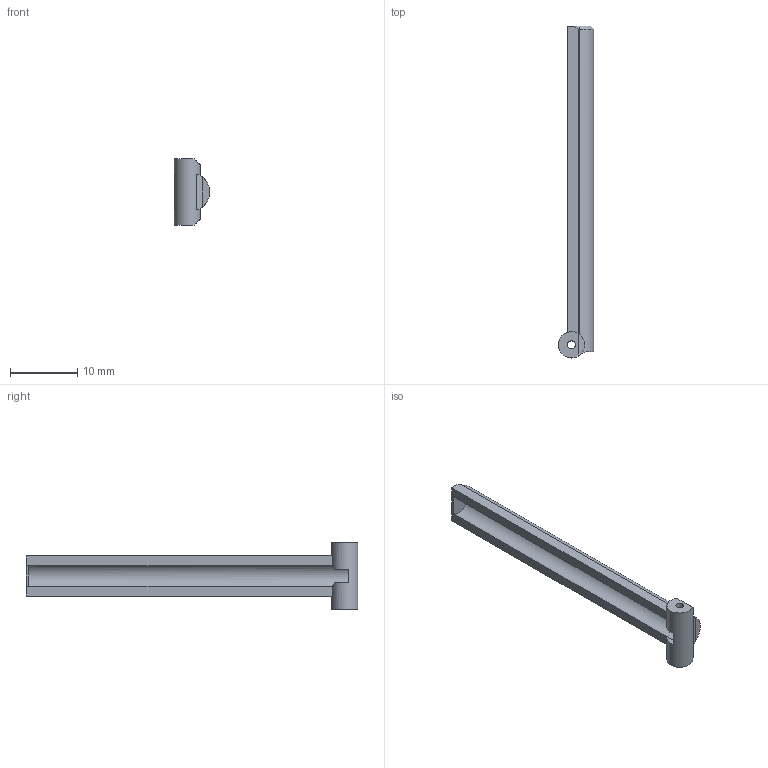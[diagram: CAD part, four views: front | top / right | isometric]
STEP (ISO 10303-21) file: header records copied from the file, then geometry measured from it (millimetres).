
FILE_DESCRIPTION(('FreeCAD Model'),'2;1');
FILE_NAME('Open CASCADE Shape Model','2026-01-29T07:27:15',(''),(''), 'Open CASCADE STEP processor 7.8','FreeCAD','Unknown');
FILE_SCHEMA(('AUTOMOTIVE_DESIGN { 1 0 10303 214 1 1 1 1 }'));
Length unit declared in the file: millimetre
Products named in the file (1): antenna_holder
Bounding box: 5.23 x 49.45 x 9.9 mm (x, y, z)
Volume: 536.5 mm3; surface area: 1244.7 mm2
Topology: 1 solids, 1 shells, 27 faces, 77 edges, 50 vertices
Faces by surface type: plane 18, cylinder 6, cone 3
Full cylindrical faces by diameter (mm): 1.2 x1, 3.9 x1
Entity records: 1153 total; most frequent: CARTESIAN_POINT 421, ORIENTED_EDGE 154, DIRECTION 145, EDGE_CURVE 77, AXIS2_PLACEMENT_3D 54, VERTEX_POINT 50, LINE 37, VECTOR 37
